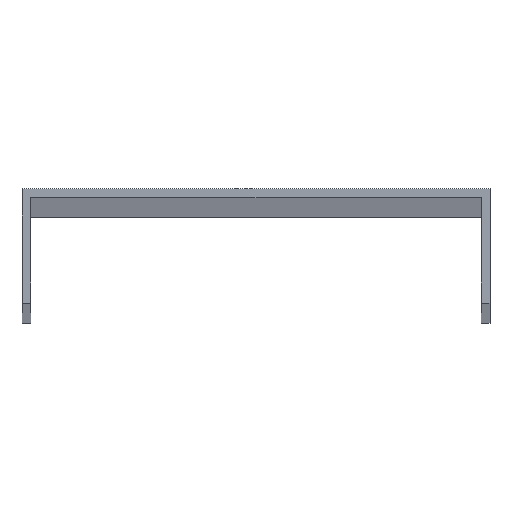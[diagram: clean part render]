
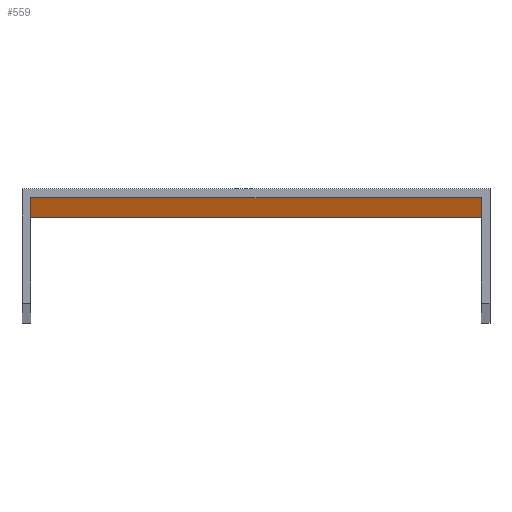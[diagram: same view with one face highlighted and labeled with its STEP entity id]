
A CAD part, top view. The second image highlights one B-rep face of the part: STEP entity #559.
In plain terms, the highlighted planar face has unit normal (0, -1, 0).
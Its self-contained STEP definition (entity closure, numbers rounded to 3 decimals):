
#8 = VERTEX_POINT ( 'NONE', #249 ) ;
#12 = EDGE_LOOP ( 'NONE', ( #302, #283, #57, #145 ) ) ;
#18 = EDGE_CURVE ( 'NONE', #379, #106, #384, .T. ) ;
#21 = EDGE_CURVE ( 'NONE', #454, #8, #297, .T. ) ;
#23 = DIRECTION ( 'NONE',  ( 1., 0., 0. ) ) ;
#25 = VECTOR ( 'NONE', #537, 1000. ) ;
#28 = VECTOR ( 'NONE', #205, 1000. ) ;
#29 = DIRECTION ( 'NONE',  ( 0., 0., 1. ) ) ;
#33 = VERTEX_POINT ( 'NONE', #111 ) ;
#37 = DIRECTION ( 'NONE',  ( 0., 0., -1. ) ) ;
#42 = CARTESIAN_POINT ( 'NONE',  ( 3.25, -1.5, 1000. ) ) ;
#44 = VERTEX_POINT ( 'NONE', #73 ) ;
#51 = VECTOR ( 'NONE', #345, 1000. ) ;
#52 = VECTOR ( 'NONE', #23, 1000. ) ;
#53 = VECTOR ( 'NONE', #338, 1000. ) ;
#57 = ORIENTED_EDGE ( 'NONE', *, *, #18, .T. ) ;
#73 = CARTESIAN_POINT ( 'NONE',  ( 3.25, -1.5, 988. ) ) ;
#77 = CARTESIAN_POINT ( 'NONE',  ( -3.25, -1.5, 988. ) ) ;
#80 = LINE ( 'NONE', #352, #142 ) ;
#84 = CARTESIAN_POINT ( 'NONE',  ( -3.25, -1.5, 1000. ) ) ;
#101 = EDGE_LOOP ( 'NONE', ( #103, #506, #177, #584 ) ) ;
#103 = ORIENTED_EDGE ( 'NONE', *, *, #124, .T. ) ;
#104 = ORIENTED_EDGE ( 'NONE', *, *, #21, .F. ) ;
#106 = VERTEX_POINT ( 'NONE', #522 ) ;
#111 = CARTESIAN_POINT ( 'NONE',  ( 39.5, -1.5, -1000. ) ) ;
#116 = DIRECTION ( 'NONE',  ( -1., 0., 0. ) ) ;
#124 = EDGE_CURVE ( 'NONE', #463, #273, #218, .T. ) ;
#125 = CARTESIAN_POINT ( 'NONE',  ( -41., -1.5, 1000. ) ) ;
#135 = LINE ( 'NONE', #395, #51 ) ;
#139 = VERTEX_POINT ( 'NONE', #488 ) ;
#142 = VECTOR ( 'NONE', #37, 1000. ) ;
#143 = EDGE_CURVE ( 'NONE', #106, #438, #135, .T. ) ;
#144 = CARTESIAN_POINT ( 'NONE',  ( 39.5, -1.5, 1000. ) ) ;
#145 = ORIENTED_EDGE ( 'NONE', *, *, #143, .T. ) ;
#154 = CARTESIAN_POINT ( 'NONE',  ( -39.5, -1.5, -1000. ) ) ;
#169 = EDGE_CURVE ( 'NONE', #273, #139, #309, .T. ) ;
#175 = DIRECTION ( 'NONE',  ( 1., 0., 0. ) ) ;
#177 = ORIENTED_EDGE ( 'NONE', *, *, #357, .T. ) ;
#196 = LINE ( 'NONE', #424, #305 ) ;
#205 = DIRECTION ( 'NONE',  ( 0., 0., -1. ) ) ;
#213 = ORIENTED_EDGE ( 'NONE', *, *, #317, .F. ) ;
#214 = DIRECTION ( 'NONE',  ( 0., -1., 0. ) ) ;
#215 = DIRECTION ( 'NONE',  ( 0., 0., 1. ) ) ;
#218 = LINE ( 'NONE', #359, #25 ) ;
#219 = CARTESIAN_POINT ( 'NONE',  ( 3.25, -1.5, -979. ) ) ;
#221 = VECTOR ( 'NONE', #175, 1000. ) ;
#232 = ORIENTED_EDGE ( 'NONE', *, *, #452, .F. ) ;
#247 = LINE ( 'NONE', #430, #52 ) ;
#249 = CARTESIAN_POINT ( 'NONE',  ( -3.25, -1.5, 979. ) ) ;
#258 = FACE_BOUND ( 'NONE', #101, .T. ) ;
#267 = VECTOR ( 'NONE', #215, 1000. ) ;
#273 = VERTEX_POINT ( 'NONE', #360 ) ;
#283 = ORIENTED_EDGE ( 'NONE', *, *, #287, .F. ) ;
#287 = EDGE_CURVE ( 'NONE', #379, #33, #548, .T. ) ;
#293 = CARTESIAN_POINT ( 'NONE',  ( -41., -1.5, 988. ) ) ;
#297 = LINE ( 'NONE', #571, #473 ) ;
#302 = ORIENTED_EDGE ( 'NONE', *, *, #312, .F. ) ;
#305 = VECTOR ( 'NONE', #116, 1000. ) ;
#309 = LINE ( 'NONE', #84, #267 ) ;
#311 = LINE ( 'NONE', #447, #221 ) ;
#312 = EDGE_CURVE ( 'NONE', #33, #438, #196, .T. ) ;
#317 = EDGE_CURVE ( 'NONE', #44, #454, #561, .T. ) ;
#338 = DIRECTION ( 'NONE',  ( -1., 0., 0. ) ) ;
#343 = DIRECTION ( 'NONE',  ( -1., 0., 0. ) ) ;
#344 = FACE_BOUND ( 'NONE', #549, .T. ) ;
#345 = DIRECTION ( 'NONE',  ( 0., 0., -1. ) ) ;
#352 = CARTESIAN_POINT ( 'NONE',  ( 3.25, -1.5, 1000. ) ) ;
#357 = EDGE_CURVE ( 'NONE', #139, #459, #247, .T. ) ;
#359 = CARTESIAN_POINT ( 'NONE',  ( -41., -1.5, -988. ) ) ;
#360 = CARTESIAN_POINT ( 'NONE',  ( -3.25, -1.5, -988. ) ) ;
#379 = VERTEX_POINT ( 'NONE', #513 ) ;
#384 = LINE ( 'NONE', #429, #410 ) ;
#390 = DIRECTION ( 'NONE',  ( 0., 0., -1. ) ) ;
#395 = CARTESIAN_POINT ( 'NONE',  ( -39.5, -1.5, 1000. ) ) ;
#400 = LINE ( 'NONE', #42, #483 ) ;
#410 = VECTOR ( 'NONE', #343, 1000. ) ;
#424 = CARTESIAN_POINT ( 'NONE',  ( -41., -1.5, -1000. ) ) ;
#429 = CARTESIAN_POINT ( 'NONE',  ( -41., -1.5, 1000. ) ) ;
#430 = CARTESIAN_POINT ( 'NONE',  ( -41., -1.5, -979. ) ) ;
#433 = AXIS2_PLACEMENT_3D ( 'NONE', #125, #214, #390 ) ;
#436 = PLANE ( 'NONE',  #433 ) ;
#438 = VERTEX_POINT ( 'NONE', #154 ) ;
#447 = CARTESIAN_POINT ( 'NONE',  ( -41., -1.5, 979. ) ) ;
#452 = EDGE_CURVE ( 'NONE', #526, #44, #400, .T. ) ;
#454 = VERTEX_POINT ( 'NONE', #77 ) ;
#459 = VERTEX_POINT ( 'NONE', #219 ) ;
#463 = VERTEX_POINT ( 'NONE', #481 ) ;
#473 = VECTOR ( 'NONE', #520, 1000. ) ;
#481 = CARTESIAN_POINT ( 'NONE',  ( 3.25, -1.5, -988. ) ) ;
#483 = VECTOR ( 'NONE', #29, 1000. ) ;
#488 = CARTESIAN_POINT ( 'NONE',  ( -3.25, -1.5, -979. ) ) ;
#501 = EDGE_CURVE ( 'NONE', #8, #526, #311, .T. ) ;
#504 = ORIENTED_EDGE ( 'NONE', *, *, #501, .F. ) ;
#506 = ORIENTED_EDGE ( 'NONE', *, *, #169, .T. ) ;
#510 = EDGE_CURVE ( 'NONE', #459, #463, #80, .T. ) ;
#513 = CARTESIAN_POINT ( 'NONE',  ( 39.5, -1.5, 1000. ) ) ;
#520 = DIRECTION ( 'NONE',  ( 0., 0., -1. ) ) ;
#521 = FACE_OUTER_BOUND ( 'NONE', #12, .T. ) ;
#522 = CARTESIAN_POINT ( 'NONE',  ( -39.5, -1.5, 1000. ) ) ;
#526 = VERTEX_POINT ( 'NONE', #535 ) ;
#535 = CARTESIAN_POINT ( 'NONE',  ( 3.25, -1.5, 979. ) ) ;
#537 = DIRECTION ( 'NONE',  ( -1., 0., 0. ) ) ;
#548 = LINE ( 'NONE', #144, #28 ) ;
#549 = EDGE_LOOP ( 'NONE', ( #104, #213, #232, #504 ) ) ;
#559 = ADVANCED_FACE ( 'NONE', ( #344, #521, #258 ), #436, .T. ) ;
#561 = LINE ( 'NONE', #293, #53 ) ;
#571 = CARTESIAN_POINT ( 'NONE',  ( -3.25, -1.5, 1000. ) ) ;
#584 = ORIENTED_EDGE ( 'NONE', *, *, #510, .T. ) ;
